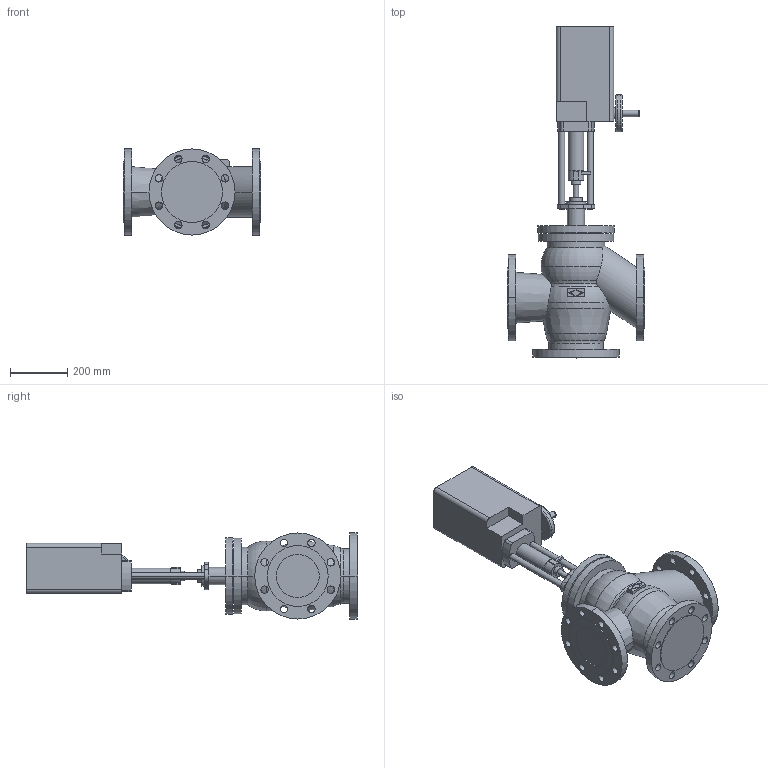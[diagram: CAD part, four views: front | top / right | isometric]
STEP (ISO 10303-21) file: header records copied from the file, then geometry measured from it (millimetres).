
FILE_DESCRIPTION(('OneSpaceDesigner STEP Export'),'2;1');
FILE_NAME('c000002425.stp','2006-09-19T12:11:03',(''),(''),'OneSpace Designer STEP processor for AP214 (Solid Model)','OneSpace Designer 13.20A 18-Aug-2005 (C) CoCreate Software GmbH','');
FILE_SCHEMA(('AUTOMOTIVE_DESIGN { 1 0 10303 214 1 1 1 1 }'));
Length unit declared in the file: millimetre
Products named in the file (2): 1; 2
Bounding box: 480 x 1157.5 x 300 mm (x, y, z)
Volume: 42059334.5 mm3; surface area: 1450241.2 mm2
Topology: 2 solids, 2 shells, 222 faces, 551 edges, 364 vertices
Faces by surface type: cylinder 114, plane 82, torus 22, cone 4
Entity records: 6159 total; most frequent: CARTESIAN_POINT 1231, ORIENTED_EDGE 1102, DIRECTION 889, EDGE_CURVE 551, VERTEX_POINT 364, AXIS2_PLACEMENT_3D 326, EDGE_LOOP 301, VECTOR 237
